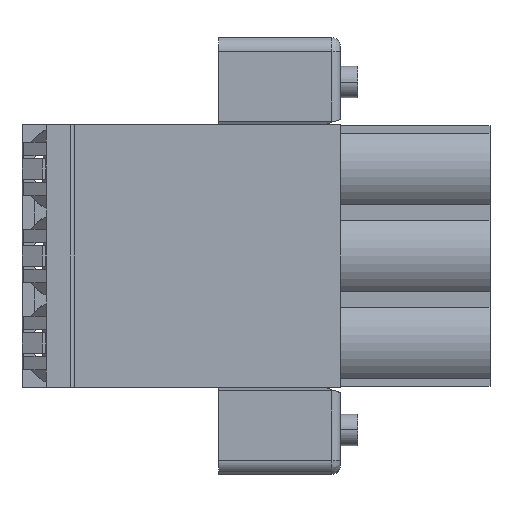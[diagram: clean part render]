
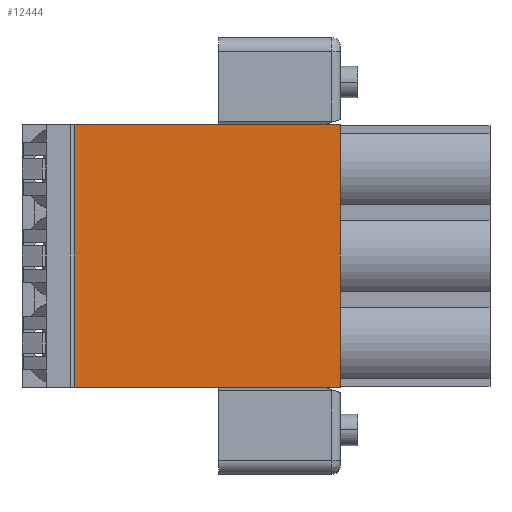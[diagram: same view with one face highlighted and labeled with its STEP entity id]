
A CAD part, front view. The second image highlights one B-rep face of the part: STEP entity #12444.
In plain terms, the highlighted planar face has unit normal (0, -1, 0).
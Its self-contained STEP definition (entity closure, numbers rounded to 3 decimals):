
#698=DIRECTION('',(0.,0.,-1.));
#699=VECTOR('',#698,15.1);
#700=CARTESIAN_POINT('',(18.303,1.,-5.));
#701=LINE('',#700,#699);
#702=DIRECTION('',(-1.,0.,0.));
#703=VECTOR('',#702,15.3);
#704=CARTESIAN_POINT('',(18.303,1.,-20.1));
#705=LINE('',#704,#703);
#706=DIRECTION('',(0.,0.,1.));
#707=VECTOR('',#706,15.1);
#708=CARTESIAN_POINT('',(3.003,1.,-20.1));
#709=LINE('',#708,#707);
#710=DIRECTION('',(1.,0.,0.));
#711=VECTOR('',#710,15.3);
#712=CARTESIAN_POINT('',(3.003,1.,-5.));
#713=LINE('',#712,#711);
#9464=CARTESIAN_POINT('',(3.003,1.,-20.1));
#9465=CARTESIAN_POINT('',(3.003,1.,-5.));
#9466=VERTEX_POINT('',#9464);
#9467=VERTEX_POINT('',#9465);
#9468=CARTESIAN_POINT('',(18.303,1.,-5.));
#9469=CARTESIAN_POINT('',(18.303,1.,-20.1));
#9470=VERTEX_POINT('',#9468);
#9471=VERTEX_POINT('',#9469);
#12430=CARTESIAN_POINT('',(10.653,1.,-20.05));
#12431=DIRECTION('',(0.,1.,0.));
#12432=DIRECTION('',(1.,0.,0.));
#12433=AXIS2_PLACEMENT_3D('',#12430,#12431,#12432);
#12434=PLANE('',#12433);
#12436=ORIENTED_EDGE('',*,*,#12435,.T.);
#12438=ORIENTED_EDGE('',*,*,#12437,.T.);
#12439=ORIENTED_EDGE('',*,*,#12420,.T.);
#12441=ORIENTED_EDGE('',*,*,#12440,.T.);
#12442=EDGE_LOOP('',(#12436,#12438,#12439,#12441));
#12443=FACE_OUTER_BOUND('',#12442,.F.);
#12444=ADVANCED_FACE('',(#12443),#12434,.F.);
#12420=EDGE_CURVE('',#9466,#9467,#709,.T.);
#12435=EDGE_CURVE('',#9470,#9471,#701,.T.);
#12437=EDGE_CURVE('',#9471,#9466,#705,.T.);
#12440=EDGE_CURVE('',#9467,#9470,#713,.T.);
